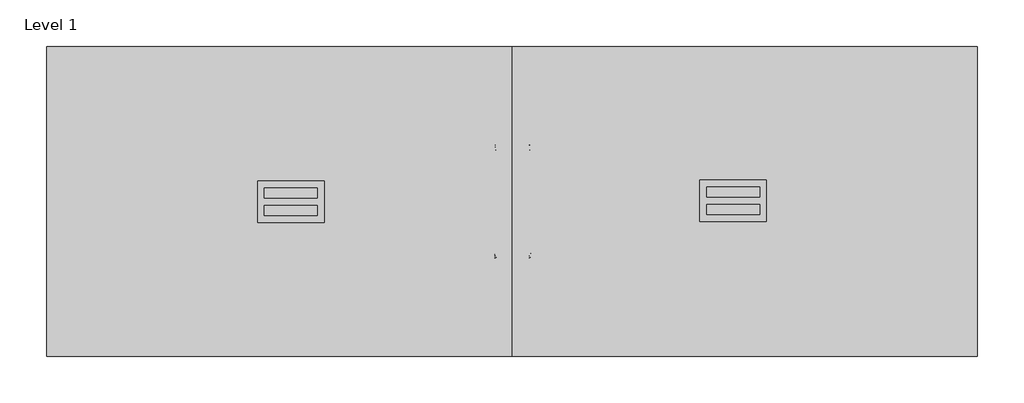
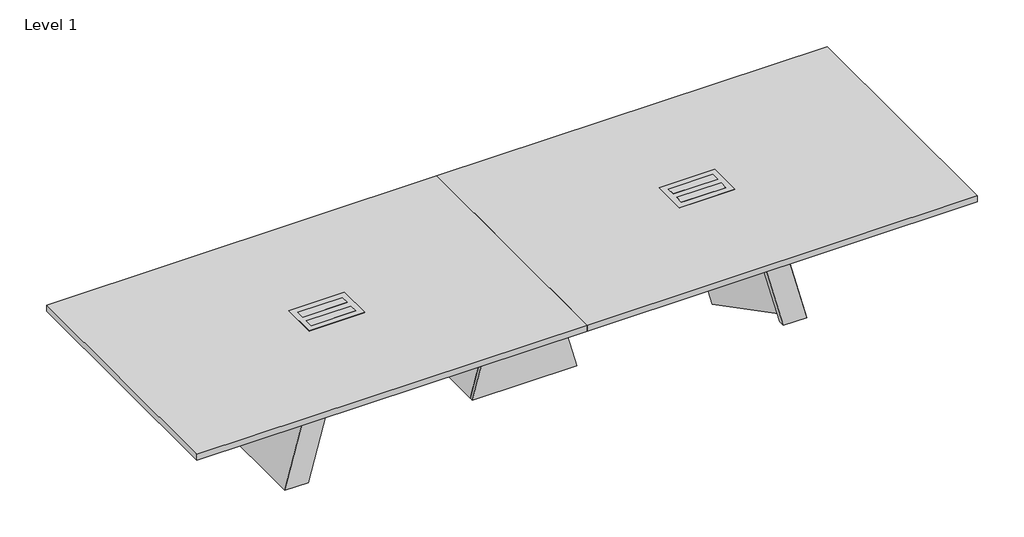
# One storey: 13 proxies.
"""IFC4 building model written with IfcOpenShell, lengths in millimetres."""

from ifc_helpers import new_model, si_unit, origin, place, context, project, spatial, transform, mapped, element, save
from components import generic_models_fc71b6cc, generic_models_024ccd00, generic_models_edd9a5f6, generic_models_ef67edaf, generic_models_c6f29e5f, generic_models_c3284a41, generic_models_82c49c89, generic_models_ef97d589, generic_models_5ebf4275, generic_models_fcb6373f, generic_models_26014607, generic_models_38499bbf

model = new_model("IFC4")

# Units and contexts
model_context = context("Model", 3, world=origin())
ifc_project = project(units=[si_unit("LENGTHUNIT", "METRE", prefix="MILLI")], contexts=[model_context])

# Site, building, storey
site = spatial("IfcSite", under=ifc_project)
building = spatial("IfcBuilding", under=site)
storey = spatial("IfcBuildingStorey", under=building, Name="Level 1", Elevation=0.0)

# Proxies
placement = place(None, origin())
generic_models_shape = generic_models_fc71b6cc(model_context)
element("IfcBuildingElementProxy", 1, Name="FOUNDATION^TABLE 5_MOBILE WIRE TOWER-ASSEMBLY", ObjectType="FOUNDATION^TABLE 5_MOBILE WIRE TOWER-ASSEMBLY", at=placement, inside=storey, context=model_context, shape_type="MappedRepresentation", body=[
    mapped(generic_models_shape, transform((1981.2, 889.0, -704.85), x_axis=(1.0, 0.0, 0.0), y_axis=(0.0, 0.0, 1.0), z_axis=(0.0, -1.0, 0.0))),
])
generic_models_2_shape = generic_models_024ccd00(model_context)
element("IfcBuildingElementProxy", 2, Name="FOUNDATION^TABLE 5_60x180 BASE KEELS-KEEL 2", ObjectType="FOUNDATION^TABLE 5_60x180 BASE KEELS-KEEL 2", at=placement, inside=storey, context=model_context, shape_type="MappedRepresentation", body=[
    mapped(generic_models_2_shape, transform((0.0, 0.0, 0.0), x_axis=(1.0, 0.0, 0.0), y_axis=(0.0, 0.0, 1.0), z_axis=(0.0, -1.0, 0.0))),
])
generic_models_3_shape = generic_models_edd9a5f6(model_context)
element("IfcBuildingElementProxy", 3, Name="FOUNDATION^TABLE 5_60x180 RT END BASE-BACK PANEL", ObjectType="FOUNDATION^TABLE 5_60x180 RT END BASE-BACK PANEL", at=placement, inside=storey, context=model_context, shape_type="MappedRepresentation", body=[
    mapped(generic_models_3_shape, transform((0.0, 0.0, 0.0), x_axis=(1.0, 0.0, 0.0), y_axis=(0.0, 0.0, 1.0), z_axis=(0.0, -1.0, 0.0))),
])
generic_models_4_shape = generic_models_ef67edaf(model_context)
element("IfcBuildingElementProxy", 4, Name="FOUNDATION^TABLE 5_60x180 LT END BASE-RIGHT END", ObjectType="FOUNDATION^TABLE 5_60x180 LT END BASE-RIGHT END", at=placement, inside=storey, context=model_context, shape_type="MappedRepresentation", body=[
    mapped(generic_models_4_shape, transform((0.0, 0.0, 0.0), x_axis=(1.0, 0.0, 0.0), y_axis=(0.0, 0.0, 1.0), z_axis=(0.0, -1.0, 0.0))),
])
generic_models_5_shape = generic_models_c6f29e5f(model_context)
element("IfcBuildingElementProxy", 5, Name="FOUNDATION^TABLE 5_60x180 RT END BASE-RIGHT END", ObjectType="FOUNDATION^TABLE 5_60x180 RT END BASE-RIGHT END", at=placement, inside=storey, context=model_context, shape_type="MappedRepresentation", body=[
    mapped(generic_models_5_shape, transform((0.0, 0.0, 0.0), x_axis=(1.0, 0.0, 0.0), y_axis=(0.0, 0.0, 1.0), z_axis=(0.0, -1.0, 0.0))),
])
generic_models_6_shape = generic_models_c3284a41(model_context)
element("IfcBuildingElementProxy", 6, Name="BYRNE^M2X_7 WINDOW-MOVING MODEL", ObjectType="BYRNE^M2X_7 WINDOW-MOVING MODEL", at=placement, inside=storey, context=model_context, shape_type="MappedRepresentation", body=[
    mapped(generic_models_6_shape, transform((1041.4, 858.04375, -25.4), x_axis=(1.0, 0.0, 0.0), y_axis=(0.0, 0.0, 1.0), z_axis=(0.0, -1.0, 0.0))),
])
generic_models_7_shape = generic_models_82c49c89(model_context)
element("IfcBuildingElementProxy", 7, Name="FOUNDATION^TABLE 5_60x180 ANGLE BASES-RIGHT TOP", ObjectType="FOUNDATION^TABLE 5_60x180 ANGLE BASES-RIGHT TOP", at=placement, inside=storey, context=model_context, shape_type="MappedRepresentation", body=[
    mapped(generic_models_7_shape, transform((0.0, 0.0, 0.0), x_axis=(1.0, 0.0, 0.0), y_axis=(0.0, 0.0, 1.0), z_axis=(0.0, -1.0, 0.0))),
])
generic_models_8_shape = generic_models_ef97d589(model_context)
element("IfcBuildingElementProxy", 8, Name="FOUNDATION^TABLE 5_60x180 BASE KEELS-KEEL 1", ObjectType="FOUNDATION^TABLE 5_60x180 BASE KEELS-KEEL 1", at=placement, inside=storey, context=model_context, shape_type="MappedRepresentation", body=[
    mapped(generic_models_8_shape, transform((0.0, 0.0, 0.0), x_axis=(1.0, 0.0, 0.0), y_axis=(0.0, 0.0, 1.0), z_axis=(0.0, -1.0, 0.0))),
])
generic_models_9_shape = generic_models_5ebf4275(model_context)
element("IfcBuildingElementProxy", 9, Name="FOUNDATION^TABLE 5_60x180 RT END BASE-LEFT END", ObjectType="FOUNDATION^TABLE 5_60x180 RT END BASE-LEFT END", at=placement, inside=storey, context=model_context, shape_type="MappedRepresentation", body=[
    mapped(generic_models_9_shape, transform((0.0, 0.0, 0.0), x_axis=(1.0, 0.0, 0.0), y_axis=(0.0, 0.0, 1.0), z_axis=(0.0, -1.0, 0.0))),
])
generic_models_10_shape = generic_models_fcb6373f(model_context)
element("IfcBuildingElementProxy", 10, Name="FOUNDATION^TABLE 5_60x180 LT END BASE-LEFT END", ObjectType="FOUNDATION^TABLE 5_60x180 LT END BASE-LEFT END", at=placement, inside=storey, context=model_context, shape_type="MappedRepresentation", body=[
    mapped(generic_models_10_shape, transform((0.0, 0.0, 0.0), x_axis=(1.0, 0.0, 0.0), y_axis=(0.0, 0.0, 1.0), z_axis=(0.0, -1.0, 0.0))),
])
generic_models_11_shape = generic_models_26014607(model_context)
element("IfcBuildingElementProxy", 11, Name="FOUNDATION^TABLE 5_60x180 ANGLE BASES-LEFT TOP", ObjectType="FOUNDATION^TABLE 5_60x180 ANGLE BASES-LEFT TOP", at=placement, inside=storey, context=model_context, shape_type="MappedRepresentation", body=[
    mapped(generic_models_11_shape, transform((0.0, 0.0, 0.0), x_axis=(1.0, 0.0, 0.0), y_axis=(0.0, 0.0, 1.0), z_axis=(0.0, -1.0, 0.0))),
])
element("IfcBuildingElementProxy", 12, Name="BYRNE^M2X_7 WINDOW-MOVING MODEL_1", ObjectType="BYRNE^M2X_7 WINDOW-MOVING MODEL_1", at=placement, inside=storey, context=model_context, shape_type="MappedRepresentation", body=[
    mapped(generic_models_6_shape, transform((3213.1, 862.80625, -25.4), x_axis=(1.0, 0.0, 0.0), y_axis=(0.0, 0.0, 1.0), z_axis=(0.0, -1.0, 0.0))),
])
generic_models_12_shape = generic_models_38499bbf(model_context)
element("IfcBuildingElementProxy", 13, Name="FOUNDATION^TABLE 5_60x180 LT END BASE-BACK PANEL", ObjectType="FOUNDATION^TABLE 5_60x180 LT END BASE-BACK PANEL", at=placement, inside=storey, context=model_context, shape_type="MappedRepresentation", body=[
    mapped(generic_models_12_shape, transform((0.0, 0.0, 0.0), x_axis=(1.0, 0.0, 0.0), y_axis=(0.0, 0.0, 1.0), z_axis=(0.0, -1.0, 0.0))),
])

save(model, "model.ifc")
